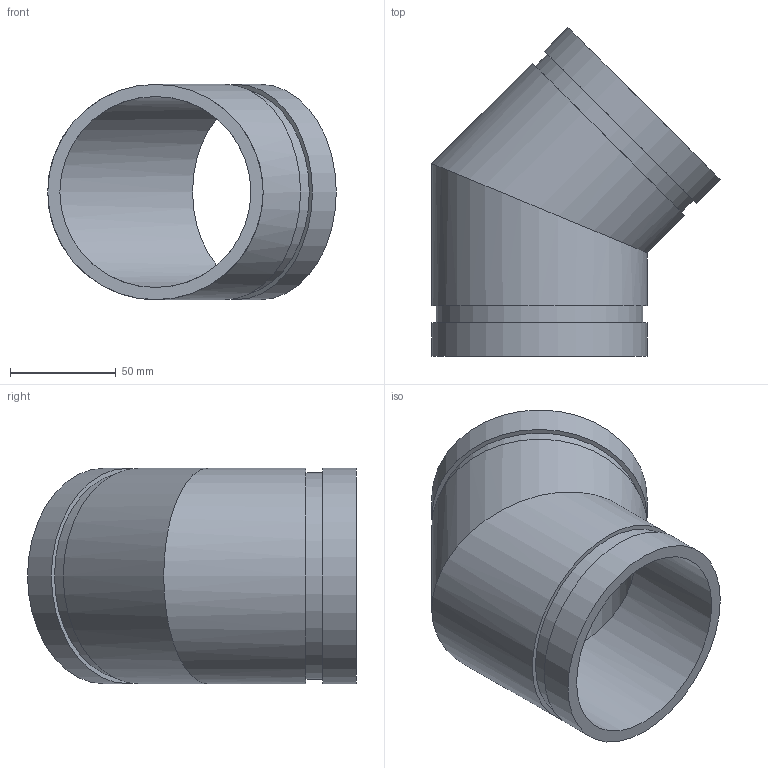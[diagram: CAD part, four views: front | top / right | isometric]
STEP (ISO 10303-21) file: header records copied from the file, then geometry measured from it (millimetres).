
FILE_DESCRIPTION(/* description */ ('VIC 45 DEG FABRICATED ELBOW No 11 SWS (OGS)','CAx-IF Rec.Pracs.---Representation and Presentation of Product Manufacturing Information (PMI)---4.0---2014-10-13'),/* implementation_level */ '2;1');
FILE_NAME(/* name */ 'C:\Users\kkamble\AppData\Roaming\Autodesk\ApplicationPlugins\Back Up\Victaulic_IPS_Elbow 45 Deg_No 11 SWS (OGS)\Victaulic_IPS_Elbow 45 Deg_No 11 SWS (OGS)_3.5 (90).stp',/* time_stamp */ '2020-09-16T22:14:34+06:00',/* author */ ('cgray'),/* organization */ ('Victaulic'),/* preprocessor_version */ 'ST-DEVELOPER v17.2',/* originating_system */ 'Autodesk Inventor 2019',/* authorisation */ '');
FILE_SCHEMA (('AP242_MANAGED_MODEL_BASED_3D_ENGINEERING_MIM_LF { 1 0 10303 442 1 1 4 }'));
Length unit declared in the file: inch
Products named in the file (1): 11 SWS-03.5
Bounding box: 136.11 x 155.16 x 101.6 mm (x, y, z)
Volume: 231026.4 mm3; surface area: 90024.4 mm2
Topology: 1 solids, 1 shells, 14 faces, 30 edges, 22 vertices
Faces by surface type: cylinder 8, plane 6
Full cylindrical faces by diameter (mm): 90.119 x2, 97.384 x2, 101.6 x4
Entity records: 554 total; most frequent: DIRECTION 108, CARTESIAN_POINT 84, ORIENTED_EDGE 60, AXIS2_PLACEMENT_3D 50, EDGE_CURVE 30, VERTEX_POINT 22, EDGE_LOOP 20, CIRCLE 16
